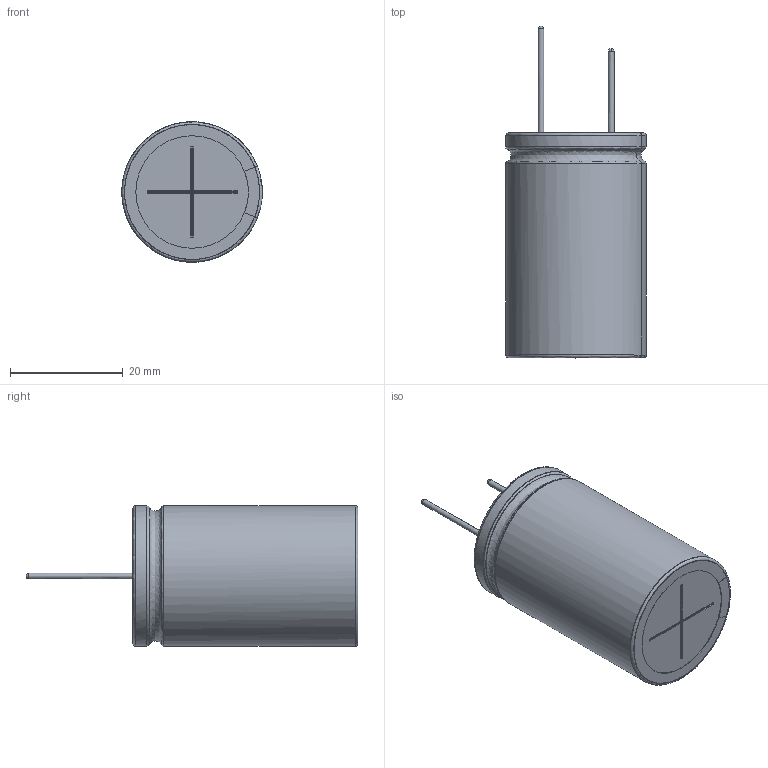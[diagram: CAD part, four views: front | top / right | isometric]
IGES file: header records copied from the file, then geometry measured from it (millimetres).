
Start section: JAMA-IS VERSION  1.0
Bounding box: 24.96 x 59 x 24.97 mm (x, y, z)
Surface area: 11224.7 mm2 (no closed solid volume)
Topology: 0 solids, 0 shells, 100 faces, 1480 edges, 1460 vertices
Faces by surface type: bspline 100
